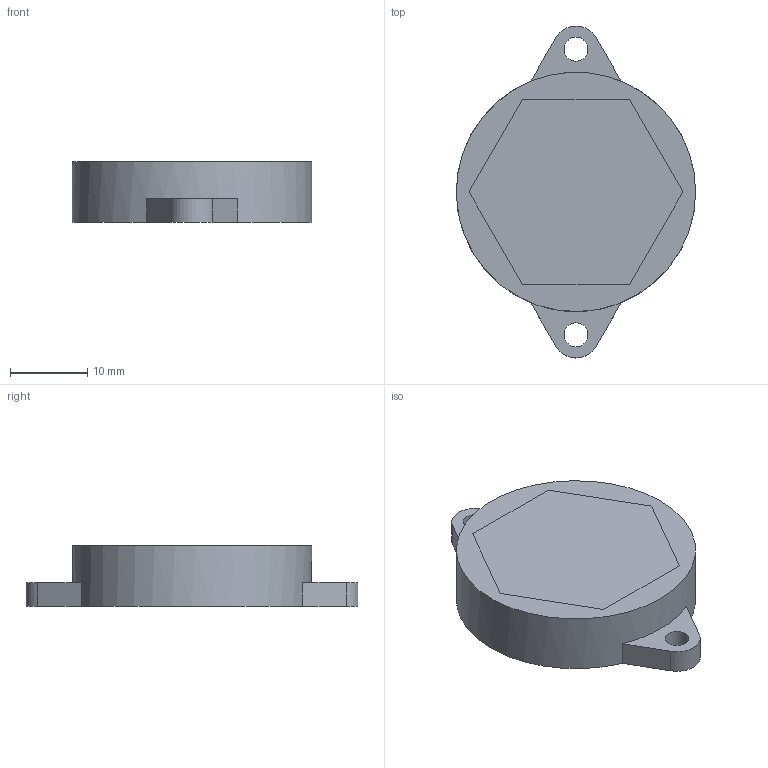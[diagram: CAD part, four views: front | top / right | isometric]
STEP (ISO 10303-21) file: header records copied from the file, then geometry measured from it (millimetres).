
FILE_DESCRIPTION(/* description */ (''),/* implementation_level */ '2;1');
FILE_NAME(/* name */ 'DSD-0542.stp',/* time_stamp */ '2013-05-10T12:17:43+02:00',/* author */ (''),/* organization */ (''),/* preprocessor_version */ 'ST-DEVELOPER v11',/* originating_system */ 'SIEMENS PLM Software NX 7.5',/* authorisation */ '');
FILE_SCHEMA (('CONFIG_CONTROL_DESIGN'));
Length unit declared in the file: millimetre
Products named in the file (1): MP003489_01
Bounding box: 31 x 43 x 7.9 mm (x, y, z)
Volume: 6190.3 mm3; surface area: 4028 mm2
Topology: 2 solids, 2 shells, 28 faces, 69 edges, 46 vertices
Faces by surface type: plane 23, cylinder 5
Full cylindrical faces by diameter (mm): 3.1 x2, 31 x1
Entity records: 894 total; most frequent: CARTESIAN_POINT 139, DIRECTION 136, ORIENTED_EDGE 130, EDGE_CURVE 65, LINE 52, VECTOR 52, VERTEX_POINT 45, AXIS2_PLACEMENT_3D 42
